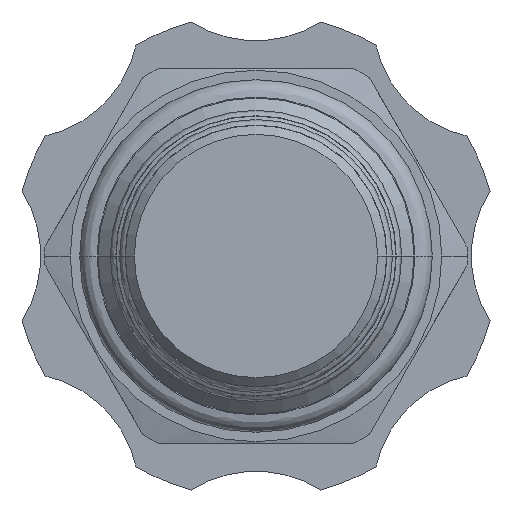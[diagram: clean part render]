
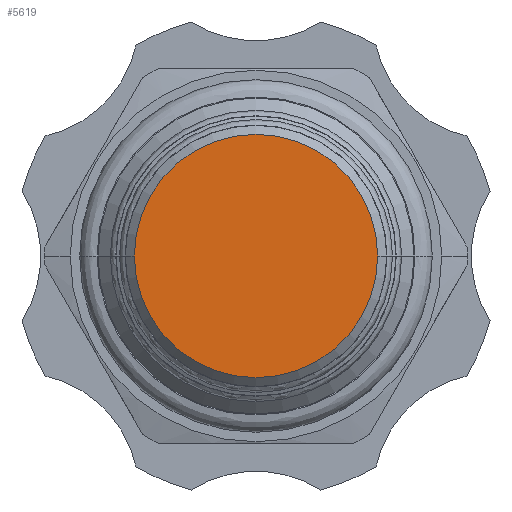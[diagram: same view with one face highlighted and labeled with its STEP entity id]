
A CAD part, front view. The second image highlights one B-rep face of the part: STEP entity #5619.
In plain terms, the highlighted planar face has unit normal (0, -1, 0).
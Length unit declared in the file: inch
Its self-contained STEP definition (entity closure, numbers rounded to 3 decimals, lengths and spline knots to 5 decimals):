
#2090=CARTESIAN_POINT('',(0.,-2.85867,0.));
#2091=DIRECTION('',(0.,1.,0.));
#2092=DIRECTION('',(-1.,0.,0.));
#2093=AXIS2_PLACEMENT_3D('',#2090,#2091,#2092);
#2100=CARTESIAN_POINT('',(0.,-2.85867,0.));
#2101=DIRECTION('',(0.,1.,0.));
#2102=DIRECTION('',(1.,0.,0.));
#2103=AXIS2_PLACEMENT_3D('',#2100,#2101,#2102);
#2625=CARTESIAN_POINT('',(-0.406,-2.85867,0.));
#2626=CARTESIAN_POINT('',(0.406,-2.85867,0.));
#2627=VERTEX_POINT('',#2625);
#2628=VERTEX_POINT('',#2626);
#5609=CARTESIAN_POINT('',(0.,-2.85867,0.));
#5610=DIRECTION('',(0.,-1.,0.));
#5611=DIRECTION('',(0.,0.,-1.));
#5612=AXIS2_PLACEMENT_3D('',#5609,#5610,#5611);
#5613=PLANE('',#5612);
#5615=ORIENTED_EDGE('',*,*,#5614,.T.);
#5616=ORIENTED_EDGE('',*,*,#5599,.T.);
#5617=EDGE_LOOP('',(#5615,#5616));
#5618=FACE_OUTER_BOUND('',#5617,.F.);
#5619=ADVANCED_FACE('',(#5618),#5613,.T.);
#2094=CIRCLE('',#2093,0.406);
#2104=CIRCLE('',#2103,0.406);
#5599=EDGE_CURVE('',#2627,#2628,#2094,.T.);
#5614=EDGE_CURVE('',#2628,#2627,#2104,.T.);
